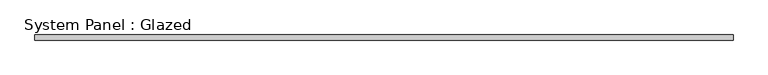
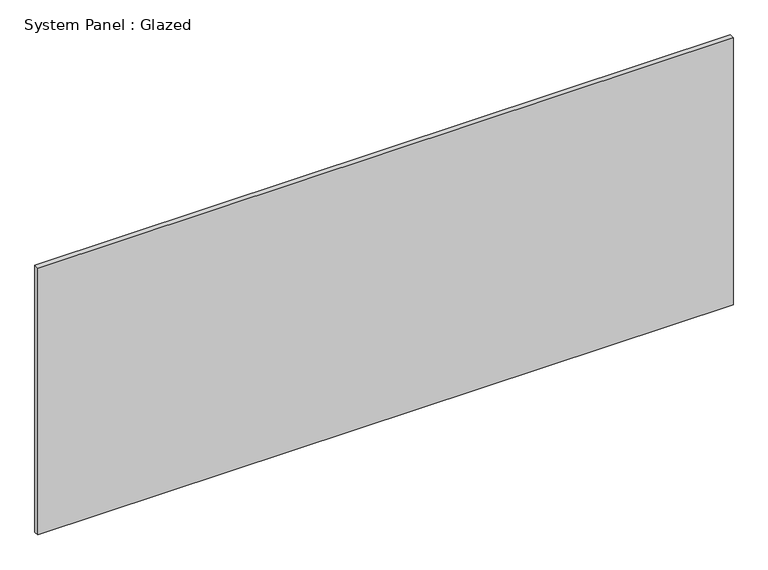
"""IFC4 building model written with IfcOpenShell, lengths in millimetres: plate geometry, System Panel : Glazed."""

from ifc_helpers import new_model, si_unit, origin, origin_with_axes, place, context, project, spatial, polyline, outline, extrude, source, transform, mapped, element, save


def system_panel_glazed_285ea693(model_context):
    return source(origin(), model_context, "Body", "SweptSolid", [
        extrude(outline(polyline([(1231.7373692, -9.0), (-1231.7373692, -9.0), (-1231.7373692, 9.0), (1231.7373692, 9.0), (1231.7373692, -9.0)])), origin_with_axes(), (0.0, 0.0, 1.0), 999.8333333),
    ])


if __name__ == "__main__":
    model = new_model("IFC4")
    model_context = context("Model", 3, world=origin())
    ifc_project = project(units=[si_unit("LENGTHUNIT", "METRE", prefix="MILLI")], contexts=[model_context])
    site = spatial("IfcSite", under=ifc_project)
    building = spatial("IfcBuilding", under=site)
    placement = place(None, origin())
    system_panel_glazed_shape = system_panel_glazed_285ea693(model_context)
    element("IfcPlate", 1, ObjectType="System Panel : Glazed", at=placement, inside=building, context=model_context, shape_type="MappedRepresentation", body=[
        mapped(system_panel_glazed_shape, transform((0.0, 0.0, 0.0), x_axis=(1.0, 0.0, 0.0), y_axis=(0.0, 1.0, 0.0), z_axis=(0.0, 0.0, 1.0))),
    ])
    save(model, "model.ifc")
